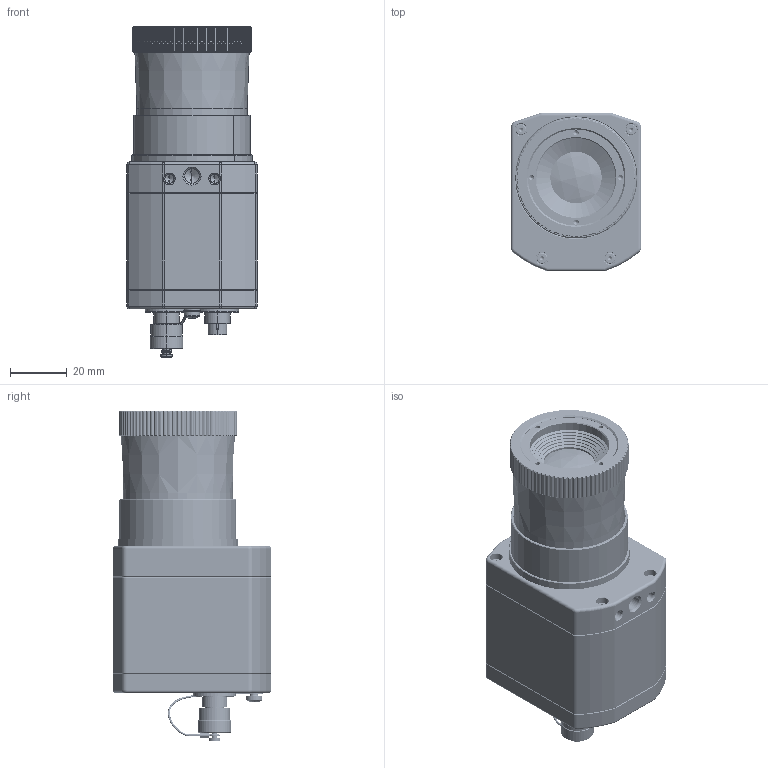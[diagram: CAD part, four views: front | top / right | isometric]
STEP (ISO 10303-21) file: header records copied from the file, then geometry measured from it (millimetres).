
FILE_DESCRIPTION (( 'STEP AP214' ), '1' );
FILE_NAME ('9P510-A PI-1M-F50-dim.STEP', '2023-01-11T12:38:00', ( '' ), ( '' ), 'SwSTEP 2.0', 'SolidWorks 2021', '' );
FILE_SCHEMA (( 'AUTOMOTIVE_DESIGN' ));
Length unit declared in the file: millimetre
Products named in the file (23): 61103 Linsenschraube KS DIN 7985 A2 M1,6x4_ISO 7045 - M1.6 x 4 - Z --- 4S; 1R111-1-A Linse 1 F50mm xM; 51093 Flanschstecker 712; 5-1polig; 1P202-X Verbindungsrohr-PI3-XXX_1P102-1; 63031 O-Ring 30,5x1_O-Ring 30,5 x 1; 61301 Linsenschraube DIN 7985 VZ M3x5_Linsenschraube KS DIN 7985 VZ M3x5; 1P201-X Frontplatte-PI3S-XXX; 1P180-A Objektivtubus F50mm; 9P181-A Objektiv F50mm; 63038 O-Ring 41 x 1_O-Ring 38 x 1,5; 63011 O-Ring 20x1_O-Ring 20 x 1; 51099 Schutzkappe-712 FS_F〉 Pi 640; 61220 Zylinderschraube ISK DIN 912-A2 M2x10_DIN 912 M3 x 5 --- 5S; 63169-f O-Ring NBR 53 x 1,5; 63169-ff O-Ring NBR 53 x 1,5; 1P210 Objektivhaltering-PI3; 9P219-X Rückwand PI-3; 1P203-X Heckplatte-PI3-XXX; 1P189-B Schraubring F25; 51095 Flanschstecker 712; 5-polig; 9P510-A PI-1M-F50-dim; 63162 O-Ring 37 x 1,5_O-Ring 38 x 1,5; 54250 Temperaturaufkleber
Assembly tree (31 placements, depth 3):
  9P510-A PI-1M-F50-dim
    1P201-X Frontplatte-PI3S-XXX
    9P219-X Rückwand PI-3
      1P203-X Heckplatte-PI3-XXX
      51093 Flanschstecker 712; 5-1polig
      51095 Flanschstecker 712; 5-polig
      61301 Linsenschraube DIN 7985 VZ M3x5_Linsenschraube KS DIN 7985 VZ M3x5
      54250 Temperaturaufkleber
      51099 Schutzkappe-712 FS_F〉 Pi 640
      63169-f O-Ring NBR 53 x 1,5
    1P202-X Verbindungsrohr-PI3-XXX_1P102-1
    1P210 Objektivhaltering-PI3
    61103 Linsenschraube KS DIN 7985 A2 M1,6x4_ISO 7045 - M1.6 x 4 - Z --- 4S  x3
    61220 Zylinderschraube ISK DIN 912-A2 M2x10_DIN 912 M3 x 5 --- 5S  x8
    63038 O-Ring 41 x 1_O-Ring 38 x 1,5
    63169-ff O-Ring NBR 53 x 1,5
    9P181-A Objektiv F50mm
      1P180-A Objektivtubus F50mm
      63162 O-Ring 37 x 1,5_O-Ring 38 x 1,5
      1P189-B Schraubring F25
      63011 O-Ring 20x1_O-Ring 20 x 1
      63031 O-Ring 30,5x1_O-Ring 30,5 x 1
      1R111-1-A Linse 1 F50mm xM
Bounding box: 46 x 56 x 116.95 mm (x, y, z)
Volume: 87618.5 mm3; surface area: 64613.5 mm2
Topology: 29 solids, 40 shells, 3698 faces, 9444 edges, 5818 vertices
Faces by surface type: cone 1361, cylinder 1343, plane 684, torus 206, bspline 92, sphere 12
Entity records: 90751 total; most frequent: CARTESIAN_POINT 25490, DIRECTION 13640, ORIENTED_EDGE 12982, EDGE_CURVE 6500, AXIS2_PLACEMENT_3D 5492, VERTEX_POINT 4069, CIRCLE 2962, EDGE_LOOP 2744
